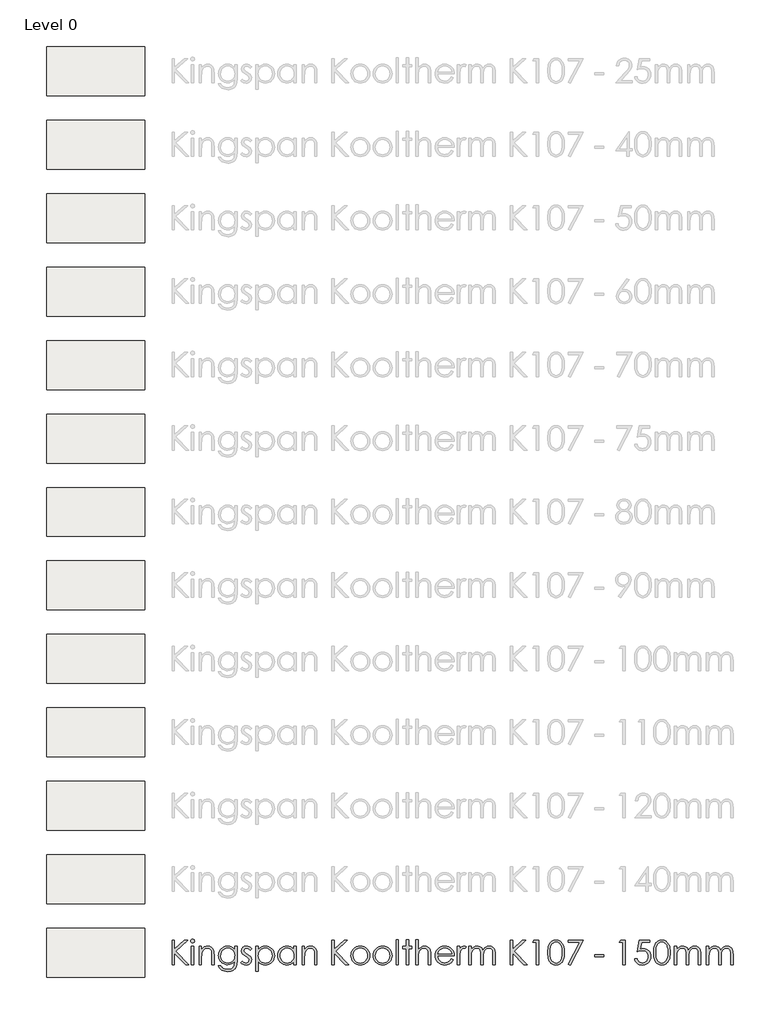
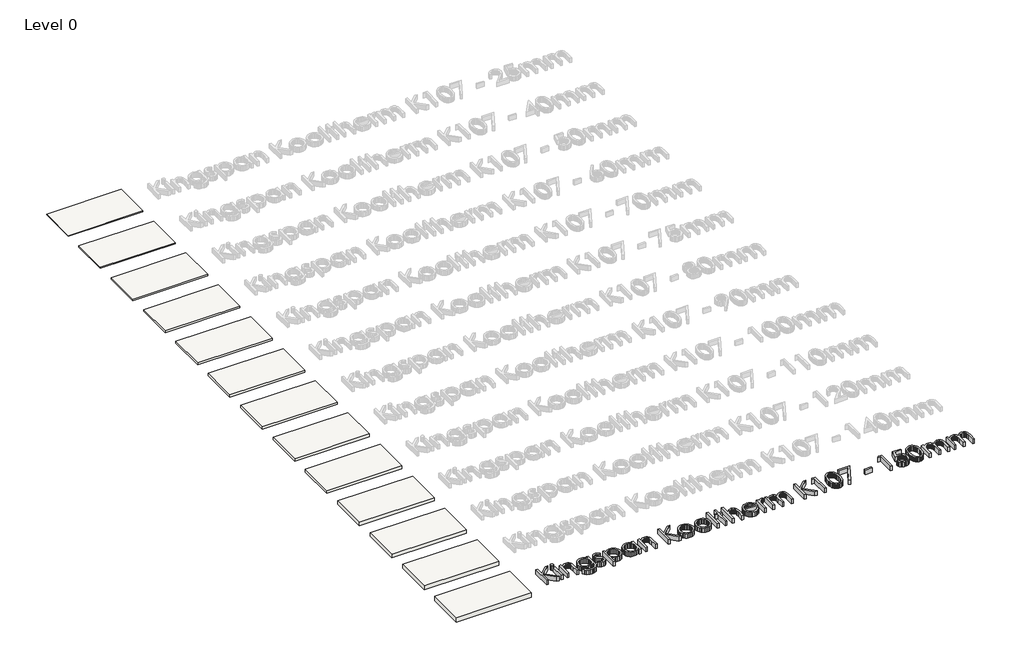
# One storey, part 1 of 13: 13 roofs, 1 proxy.
"""IFC4 building model written with IfcOpenShell, lengths in millimetres."""

import ifcopenshell
import ifcopenshell.guid

model = None  # the IFC model being written
_history = None  # IfcOwnerHistory: only IFC2X3 demands one
_inside = {}  # id of a spatial element -> (the spatial element, [elements in it])
_under = {}  # id of a project, library or spatial element -> (it, [spatial elements below it])
_declared = {}  # id of a project -> (the project, [libraries it declares])
_typed = {}  # id of a type object -> (the type object, [elements of that type])
_made_of = {}  # id of a material, layer set ... -> (it, [elements and type objects made of it])


def new_model(schema):
    """Start an empty IFC model of exactly this schema.

    Asked for "IFC4X3", IfcOpenShell would pick the latest addendum, in which some entities
    have other attributes; the version numbers below select the first issue.
    IFC2X3 requires an IfcOwnerHistory on every rooted entity: one is made here for all.
    """
    global model, _history
    if schema == "IFC4X3":
        model = ifcopenshell.file(schema_version=(4, 3, 0, 0))
    else:
        model = ifcopenshell.file(schema=schema)
    _inside.clear()
    _under.clear()
    _declared.clear()
    _typed.clear()
    _made_of.clear()
    _history = None
    if model.schema == "IFC2X3":
        org = make("IfcOrganization", Name="unknown")
        user = make(
            "IfcPersonAndOrganization",
            ThePerson=make("IfcPerson", FamilyName="unknown"),
            TheOrganization=org,
        )
        app = make(
            "IfcApplication",
            ApplicationDeveloper=org,
            Version="unknown",
            ApplicationFullName="unknown",
            ApplicationIdentifier="unknown",
        )
        _history = make(
            "IfcOwnerHistory",
            OwningUser=user,
            OwningApplication=app,
            ChangeAction="ADDED",
            CreationDate=0,
        )
    return model


def make(cls, **values):
    """One entity of the class cls with the attributes given. An attribute that is None is left unset."""
    return model.create_entity(
        cls, **{name: value for name, value in values.items() if value is not None}
    )


def rooted(cls, **values):
    """An entity with a GlobalId (a new one), such as an element, a storey or a relation."""
    return make(cls, GlobalId=ifcopenshell.guid.new(), OwnerHistory=_history, **values)


def si_unit(unit_type, name, prefix=None):
    """IfcSIUnit, for example si_unit("LENGTHUNIT", "METRE", prefix="MILLI")."""
    return make("IfcSIUnit", UnitType=unit_type, Prefix=prefix, Name=name)


def assignment(units):
    """IfcUnitAssignment: the units of a project."""
    return None if units is None else make("IfcUnitAssignment", Units=units)


def point(xyz):
    """IfcCartesianPoint."""
    return None if xyz is None else make("IfcCartesianPoint", Coordinates=xyz)


def direction(xyz):
    """IfcDirection."""
    return None if xyz is None else make("IfcDirection", DirectionRatios=xyz)


def frame(location, z_axis=None, x_axis=None):
    """IfcAxis2Placement3D, a coordinate frame: its origin and axes. An axis left out is left unset."""
    return make(
        "IfcAxis2Placement3D",
        Location=point(location),
        Axis=direction(z_axis),
        RefDirection=direction(x_axis),
    )


def origin():
    """The frame at (0, 0, 0) with its axes left unset."""
    return frame((0.0, 0.0, 0.0))


def origin_with_axes():
    """The frame at (0, 0, 0) with the z axis (0, 0, 1) and the x axis (1, 0, 0) written out."""
    return frame((0.0, 0.0, 0.0), z_axis=(0.0, 0.0, 1.0), x_axis=(1.0, 0.0, 0.0))


def place(relative_to, where):
    """IfcLocalPlacement: puts the frame where relative to a parent placement (None: the world)."""
    return make(
        "IfcLocalPlacement", PlacementRelTo=relative_to, RelativePlacement=where
    )


def context(
    kind, dimensions, precision=None, world=None, true_north=None, identifier=None
):
    """IfcGeometricRepresentationContext, for example the 3D "Model" context."""
    return make(
        "IfcGeometricRepresentationContext",
        ContextIdentifier=identifier,
        ContextType=kind,
        CoordinateSpaceDimension=dimensions,
        Precision=precision,
        WorldCoordinateSystem=world,
        TrueNorth=true_north,
    )


def project(units=None, contexts=None):
    """IfcProject with its units and contexts."""
    return rooted(
        "IfcProject",
        Name="project",
        RepresentationContexts=contexts,
        UnitsInContext=assignment(units),
    )


def spatial(cls, under=None, at=None, **own):
    """A site, building, storey or space (cls), placed at a placement, below another one or the project."""
    s = rooted(cls, ObjectPlacement=at, **own)
    if under is not None:
        _under.setdefault(under.id(), (under, []))[1].append(s)
    return s


def polyline(points):
    """IfcPolyline through the points."""
    return make("IfcPolyline", Points=[point(p) for p in points])


def outline(outer, holes=None, kind="AREA"):
    """IfcArbitraryClosedProfileDef: a profile drawn as a closed curve; with holes, ...WithVoids."""
    if holes is None:
        return make("IfcArbitraryClosedProfileDef", ProfileType=kind, OuterCurve=outer)
    return make(
        "IfcArbitraryProfileDefWithVoids",
        ProfileType=kind,
        OuterCurve=outer,
        InnerCurves=holes,
    )


def extrude(swept, where, along, depth):
    """IfcExtrudedAreaSolid: the profile swept, set in the frame where, extruded along a direction by depth."""
    return make(
        "IfcExtrudedAreaSolid",
        SweptArea=swept,
        Position=where,
        ExtrudedDirection=direction(along),
        Depth=depth,
    )


def shape(context_of_items, identifier, shape_type, items):
    """IfcShapeRepresentation: the items that make up one representation, for example the "Body"."""
    return make(
        "IfcShapeRepresentation",
        ContextOfItems=context_of_items,
        RepresentationIdentifier=identifier,
        RepresentationType=shape_type,
        Items=items,
    )


def made_of(thing, what):
    """Note that an element or type object is made of a material, layer set ...; save() writes the relation."""
    if what is not None:
        _made_of.setdefault(what.id(), (what, []))[1].append(thing)
    return thing


def element(
    cls,
    number,
    at=None,
    inside=None,
    cuts=None,
    type_object=None,
    material=None,
    context=None,
    identifier="Body",
    shape_type=None,
    held_by="IfcProductDefinitionShape",
    body=None,
    shapes=None,
    **own,
):
    """One element of the class cls, such as IfcWall. Its Tag is "e" and its number.

    at: its placement. inside: the storey or other place that contains it. cuts: it is an
    opening in that element (IfcRelVoidsElement). A single representation is given by context,
    identifier, shape_type and body (its items); several are given by shapes. held_by: the class
    of the entity that holds the representations. save() writes the other relations.
    """
    e = rooted(cls, Tag="e%d" % number, ObjectPlacement=at, **own)
    if body is not None:
        shapes = [shape(context, identifier, shape_type, body)]
    if shapes is not None:
        e.Representation = make(held_by, Representations=shapes)
    if inside is not None:
        _inside.setdefault(inside.id(), (inside, []))[1].append(e)
    if cuts is not None:
        rooted(
            "IfcRelVoidsElement", RelatingBuildingElement=cuts, RelatedOpeningElement=e
        )
    if type_object is not None:
        _typed.setdefault(type_object.id(), (type_object, []))[1].append(e)
    return made_of(e, material)


def aggregate(whole, parts):
    """IfcRelAggregates: a whole, such as a stair, and the parts it consists of."""
    return rooted("IfcRelAggregates", RelatingObject=whole, RelatedObjects=parts)


def save(model, path):
    """Write the relations noted so far, then the file.

    IfcRelAggregates (storeys below a building ...), IfcRelContainedInSpatialStructure (elements
    in a storey), IfcRelDefinesByType, IfcRelAssociatesMaterial and IfcRelDeclares: one each for
    every whole, place, type object, material and project.
    """
    for whole, parts in _under.values():
        aggregate(whole, parts)
    for where, things in _inside.values():
        rooted(
            "IfcRelContainedInSpatialStructure",
            RelatedElements=things,
            RelatingStructure=where,
        )
    for kind, things in _typed.values():
        rooted("IfcRelDefinesByType", RelatedObjects=things, RelatingType=kind)
    for what, things in _made_of.values():
        rooted("IfcRelAssociatesMaterial", RelatedObjects=things, RelatingMaterial=what)
    for by, libraries in _declared.values():
        rooted("IfcRelDeclares", RelatingContext=by, RelatedDefinitions=libraries)
    model.write(path)


model = new_model("IFC4")

# Units and contexts
model_context = context("Model", 3, world=origin())
ifc_project = project(units=[si_unit("LENGTHUNIT", "METRE", prefix="MILLI")], contexts=[model_context])

# Site, building, storey
site = spatial("IfcSite", under=ifc_project)
building = spatial("IfcBuilding", under=site)
storey = spatial("IfcBuildingStorey", under=building, Name="Level 0", Elevation=0.0)

# Proxy
placement = place(None, origin())
element("IfcBuildingElementProxy", 1, Name="600mm KI_CenturyGothic", ObjectType="600mm KI_CenturyGothic", at=placement, inside=storey, context=model_context, shape_type="SweptSolid", body=[
    extrude(outline(polyline([(-3852.2663848, -15699.1034017), (-3792.944575, -15699.1034017), (-3792.944575, -15918.316027), (-3555.1938841, -15699.1034017), (-3471.6181051, -15699.1034017), (-3760.9664119, -15966.0515459), (-3441.9572002, -16292.3214999), (-3520.8984627, -16292.3214999), (-3792.944575, -16014.0960325), (-3792.944575, -16292.3214999), (-3852.2663848, -16292.3214999), (-3852.2663848, -15699.1034017)])), origin_with_axes(), (0.0, 0.0, 1.0), 150.0),
    extrude(outline(polyline([(-3348.1854852, -15669.4424967), (-3329.145347, -15672.7252792), (-3313.1176445, -15682.5736265), (-3302.226531, -15697.0178693), (-3298.5961598, -15714.088338), (-3302.226531, -15730.9270809), (-3313.1176445, -15745.2940817), (-3329.145347, -15755.142429), (-3348.1854852, -15758.4252115), (-3366.9938975, -15755.142429), (-3382.9443581, -15745.2940817), (-3393.8354717, -15730.9270809), (-3397.4658428, -15714.088338), (-3393.8354717, -15697.0178693), (-3382.9443581, -15682.5736265), (-3366.9938975, -15672.7252792), (-3348.1854852, -15669.4424967)])), origin_with_axes(), (0.0, 0.0, 1.0), 150.0),
    extrude(outline(polyline([(-3377.6919062, -15847.4079262), (-3318.3700964, -15847.4079262), (-3318.3700964, -16292.3214999), (-3377.6919062, -16292.3214999), (-3377.6919062, -15847.4079262)])), origin_with_axes(), (0.0, 0.0, 1.0), 150.0),
    extrude(outline(polyline([(-3189.8395084, -15847.4079262), (-3130.5176986, -15847.4079262), (-3130.5176986, -15926.5036726), (-3096.9946967, -15886.9944204), (-3060.0730495, -15859.303185), (-3019.7141359, -15842.9665147), (-2975.879335, -15837.5209579), (-2953.4357238, -15839.0995901), (-2932.2955704, -15843.8354865), (-2912.4588747, -15851.7286472), (-2893.9256368, -15862.7790723), (-2877.212412, -15876.5039994), (-2862.835756, -15892.4206667), (-2841.0921499, -15930.8292213), (-2833.6238199, -15955.2087086), (-2828.2892984, -15985.5551357), (-2824.0216812, -16064.1488095), (-2824.0216812, -16292.3214999), (-2883.343491, -16292.3214999), (-2883.343491, -16079.1337458), (-2883.343491, -15976.092998), (-2884.7290183, -15955.2956057), (-2889.8125035, -15937.2403023), (-2898.2849788, -15921.9270877), (-2910.1464442, -15909.355962), (-2924.7403432, -15899.5558909), (-2941.4101193, -15892.5558401), (-2980.977303, -15886.9557994), (-3005.3471351, -15889.1137461), (-3028.4038541, -15895.5875862), (-3050.1474602, -15906.3773197), (-3070.5779533, -15921.4829466), (-3088.6622225, -15939.7651482), (-3103.3671568, -15960.084606), (-3114.6927562, -15982.44132), (-3122.6390208, -16006.8352901), (-3128.5480292, -16053.9142525), (-3130.5176986, -16128.4141035), (-3130.5176986, -16292.3214999), (-3189.8395084, -16292.3214999), (-3189.8395084, -15847.4079262)])), origin_with_axes(), (0.0, 0.0, 1.0), 150.0),
    extrude(outline(polyline([(-2319.7862977, -15847.4079262), (-2260.4644879, -15847.4079262), (-2260.4644879, -16198.395301), (-2264.5196897, -16278.6496765), (-2269.588692, -16309.4499001), (-2276.6852953, -16334.0321474), (-2289.9371156, -16362.6454585), (-2307.2924139, -16387.7732271), (-2328.7511904, -16409.4154531), (-2354.3134448, -16427.5721366), (-2383.3226209, -16441.9343098), (-2415.122162, -16452.1930049), (-2449.7120682, -16458.348222), (-2487.0923395, -16460.3999611), (-2541.0458345, -16456.3833802), (-2589.206184, -16444.3336376), (-2630.260275, -16425.5059147), (-2662.8949946, -16401.1553932), (-2690.2000204, -16367.8061856), (-2715.2650299, -16321.9824048), (-2655.94322, -16321.9824048), (-2642.4355358, -16343.151524), (-2627.0933555, -16361.3951046), (-2609.9166791, -16376.7131468), (-2590.9055067, -16389.1056506), (-2569.7894914, -16398.6691682), (-2546.2982864, -16405.5002523), (-2492.1903075, -16410.9651195), (-2438.5071593, -16405.6354257), (-2415.083541, -16398.9733084), (-2393.93856, -16389.6463441), (-2359.6624492, -16365.6047903), (-2336.8567664, -16336.1176798), (-2329.3884364, -16317.4782342), (-2324.0539149, -16293.7697863), (-2319.7862977, -16231.1458835), (-2319.7862977, -16208.4367532), (-2354.757586, -16244.2190818), (-2396.6420279, -16270.6165148), (-2443.392712, -16286.8952536), (-2492.9627269, -16292.3214999), (-2522.4063889, -16290.4242447), (-2550.9521133, -16284.7324793), (-2578.5999001, -16275.2462036), (-2605.3497494, -16261.9654175), (-2630.1540674, -16245.4742634), (-2651.9652601, -16226.3568832), (-2670.7833277, -16204.6132772), (-2686.6082702, -16180.2434451), (-2699.1456025, -16153.9280817), (-2708.1008399, -16126.3478816), (-2713.4739824, -16097.5028447), (-2715.2650299, -16067.392971), (-2713.3967404, -16037.1044753), (-2707.7918722, -16007.8780563), (-2698.4504251, -15979.713714), (-2685.3723991, -15952.6114483), (-2668.9971079, -15927.4257483), (-2649.7638648, -15905.0111029), (-2627.67267, -15885.367512), (-2602.7235235, -15868.4949758), (-2575.9833294, -15854.943843), (-2548.5189922, -15845.2644624), (-2520.3305117, -15839.456834), (-2491.4178881, -15837.5209579), (-2444.5320306, -15842.4644421), (-2400.8903346, -15857.2948945), (-2359.6045177, -15883.8661218), (-2319.7862977, -15924.0319306), (-2319.7862977, -15847.4079262)]), holes=[polyline([(-2484.1571458, -15886.9557994), (-2529.0154023, -15892.9806707), (-2570.5908765, -15911.0552847), (-2606.2187212, -15939.7699758), (-2633.2340897, -15977.7150788), (-2650.2659375, -16021.9940208), (-2655.94322, -16069.7102292), (-2653.0080263, -16105.6229036), (-2644.2024452, -16138.2817613), (-2629.5264766, -16167.6868023), (-2608.9801206, -16193.8380266), (-2583.7606272, -16215.296803), (-2555.0652466, -16230.6245004), (-2522.8939786, -16239.8211189), (-2487.2468234, -16242.8866584), (-2451.3244937, -16239.845257), (-2419.1001219, -16230.7210528), (-2390.573708, -16215.5140459), (-2365.7452519, -16194.2242363), (-2345.6382095, -16167.9812872), (-2331.2760363, -16137.9148621), (-2322.6587323, -16104.024961), (-2319.7862977, -16066.3115838), (-2325.0773706, -16017.6105407), (-2340.9505892, -15974.3936754), (-2366.4983608, -15938.1672056), (-2400.8130926, -15910.4373492), (-2440.9982119, -15892.8261869), (-2484.1571458, -15886.9557994)])]), origin_with_axes(), (0.0, 0.0, 1.0), 150.0),
    extrude(outline(polyline([(-1904.5336289, -15898.6965743), (-1940.9918246, -15936.390641), (-1962.9575012, -15914.7628978), (-1984.6721416, -15899.3145098), (-2006.1357456, -15890.045477), (-2027.3483133, -15886.9557994), (-2052.181597, -15891.6289368), (-2073.2300256, -15905.6483489), (-2087.5970264, -15925.8857371), (-2092.3860267, -15949.212803), (-2088.4466878, -15970.7633042), (-2076.628671, -15991.2324183), (-2052.0657341, -16013.400855), (-2010.2006027, -16039.122421), (-1958.3326401, -16071.9888664), (-1939.8428507, -16087.8138088), (-1926.315856, -16103.2332311), (-1909.9791857, -16135.9065716), (-1904.5336289, -16172.4420092), (-1906.9474396, -16198.5884059), (-1914.1888714, -16222.6492701), (-1926.2579245, -16244.624602), (-1943.1545989, -16264.5144015), (-1963.6719892, -16281.0055557), (-1986.6031901, -16292.7849515), (-2011.9482016, -16299.852589), (-2039.7070237, -16302.2084682), (-2077.4397114, -16298.3270607), (-2113.3958344, -16286.6828383), (-2145.4512394, -16268.2027042), (-2171.4817731, -16243.8135617), (-2135.7959969, -16203.3387852), (-2114.0041146, -16224.9665283), (-2091.5749863, -16240.4149163), (-2068.5086121, -16249.6839491), (-2044.8049918, -16252.7736267), (-2013.637869, -16247.1349651), (-1987.4914724, -16230.2189802), (-1969.7644472, -16205.6560434), (-1963.8554388, -16177.0765256), (-1967.7561567, -16153.2860081), (-1979.4583106, -16132.2762005), (-2005.0253927, -16110.5712154), (-2050.2119275, -16083.7682622), (-2099.762632, -16053.1032121), (-2117.441381, -16037.9444814), (-2130.3890611, -16022.9016136), (-2146.3781427, -15990.7689666), (-2151.7078365, -15954.310771), (-2149.5305794, -15930.2643896), (-2142.9988078, -15908.3325063), (-2132.1125219, -15888.5151211), (-2116.8717217, -15870.812234), (-2098.309518, -15856.2473007), (-2077.4590218, -15845.8437769), (-2054.3202332, -15839.6016627), (-2028.8931521, -15837.5209579), (-1997.9481, -15841.3444339), (-1966.9064954, -15852.814862), (-1935.7683384, -15871.9322421), (-1904.5336289, -15898.6965743)])), origin_with_axes(), (0.0, 0.0, 1.0), 150.0),
    extrude(outline(polyline([(-1795.7769776, -15847.4079262), (-1736.4551678, -15847.4079262), (-1736.4551678, -15928.5119631), (-1700.9238754, -15888.2689124), (-1660.4490989, -15859.9211205), (-1614.9922173, -15843.1209986), (-1564.5146096, -15837.5209579), (-1520.0618732, -15841.7596094), (-1478.9305402, -15854.4755637), (-1441.1206107, -15875.668821), (-1406.6320845, -15905.3393811), (-1377.9077381, -15940.9768811), (-1357.3903478, -15980.070958), (-1345.0799137, -16022.6216116), (-1340.9764356, -16068.628842), (-1345.0412927, -16115.5291824), (-1357.235864, -16158.7508754), (-1377.5601494, -16198.293921), (-1406.014149, -16234.1583192), (-1440.2130179, -16263.9302594), (-1477.7719111, -16285.1959309), (-1518.6908288, -16297.9553339), (-1562.9697708, -16302.2084682), (-1612.6170277, -16296.743601), (-1658.0545988, -16280.3489992), (-1699.3211052, -16253.1019049), (-1736.4551678, -16215.07956), (-1736.4551678, -16450.5129928), (-1795.7769776, -16450.5129928), (-1795.7769776, -15847.4079262)]), holes=[polyline([(-1568.5311905, -15886.9557994), (-1602.5852307, -15890.2530647), (-1633.8392507, -15900.1448607), (-1662.2932503, -15916.6311872), (-1687.9472295, -15939.7120444), (-1709.1694525, -15967.6977647), (-1724.3281832, -15998.8986808), (-1733.4234216, -16033.3147926), (-1736.4551678, -16070.9461002), (-1731.048232, -16119.8016272), (-1714.8274246, -16163.4819442), (-1688.5265441, -16200.3263495), (-1652.8793888, -16228.6741414), (-1611.4390881, -16246.7487554), (-1567.7587711, -16252.7736267), (-1525.0632888, -16246.7101344), (-1485.0326535, -16228.5196576), (-1450.2544701, -16199.4187567), (-1423.3163435, -16160.6239924), (-1406.05277, -16115.9588407), (-1400.2982454, -16069.2467775), (-1405.9948385, -16022.3029886), (-1423.0846177, -15977.8695627), (-1449.8103289, -15939.5189395), (-1484.414718, -15910.8235589), (-1524.7157001, -15892.9227393), (-1568.5311905, -15886.9557994)])]), origin_with_axes(), (0.0, 0.0, 1.0), 150.0),
    extrude(outline(polyline([(-807.0801472, -15847.4079262), (-807.0801472, -16292.3214999), (-866.401957, -16292.3214999), (-866.401957, -16216.4699149), (-903.4780882, -16254.3184655), (-944.8797679, -16281.0441767), (-990.4525125, -16296.9173953), (-1040.0418379, -16302.2084682), (-1084.3159523, -16297.9553339), (-1125.2203871, -16285.1959309), (-1162.7551422, -16263.9302594), (-1196.9202178, -16234.1583192), (-1225.340424, -16198.293921), (-1245.6405713, -16158.7508754), (-1257.8206597, -16115.5291824), (-1261.8806892, -16068.628842), (-1257.7820388, -16022.6216116), (-1245.4860875, -15980.070958), (-1224.9928353, -15940.9768811), (-1196.3022822, -15905.3393811), (-1161.8475494, -15875.668821), (-1124.061758, -15854.4755637), (-1082.9449079, -15841.7596094), (-1038.4969991, -15837.5209579), (-987.7490446, -15843.1209986), (-942.0990581, -15859.9211205), (-921.2051134, -15872.6081091), (-901.6242816, -15888.2689124), (-866.401957, -15928.5119631), (-866.401957, -15847.4079262), (-807.0801472, -15847.4079262)]), holes=[polyline([(-1034.3259343, -15886.9557994), (-1078.1414247, -15892.9227393), (-1118.4424068, -15910.8235589), (-1153.0467959, -15939.5189395), (-1179.7725071, -15977.8695627), (-1196.8622863, -16022.3029886), (-1202.5588794, -16069.2467775), (-1196.8043548, -16115.9588407), (-1179.5407813, -16160.6239924), (-1152.6026548, -16199.4187567), (-1117.8244713, -16228.5196576), (-1077.6779731, -16246.7101344), (-1034.6349021, -16252.7736267), (-991.0125165, -16246.7487554), (-949.7460102, -16228.6741414), (-914.2726493, -16200.3263495), (-888.0297002, -16163.4819442), (-871.8088928, -16119.8016272), (-866.401957, -16070.9461002), (-869.4337032, -16033.3147926), (-878.5289416, -15998.8986808), (-893.6876723, -15967.6977647), (-914.9098953, -15939.7120444), (-940.5638746, -15916.6311872), (-969.0178742, -15900.1448607), (-1000.2718941, -15890.2530647), (-1034.3259343, -15886.9557994)])]), origin_with_axes(), (0.0, 0.0, 1.0), 150.0),
    extrude(outline(polyline([(-668.662591, -15847.4079262), (-609.3407811, -15847.4079262), (-609.3407811, -15926.5036726), (-575.8177792, -15886.9944204), (-538.896132, -15859.303185), (-498.5372184, -15842.9665147), (-454.7024175, -15837.5209579), (-432.2588064, -15839.0995901), (-411.1186529, -15843.8354865), (-391.2819572, -15851.7286472), (-372.7487193, -15862.7790723), (-356.0354946, -15876.5039994), (-341.6588385, -15892.4206667), (-319.9152324, -15930.8292213), (-312.4469024, -15955.2087086), (-307.1123809, -15985.5551357), (-302.8447637, -16064.1488095), (-302.8447637, -16292.3214999), (-362.1665735, -16292.3214999), (-362.1665735, -16079.1337458), (-362.1665735, -15976.092998), (-363.5521008, -15955.2956057), (-368.635586, -15937.2403023), (-377.1080613, -15921.9270877), (-388.9695267, -15909.355962), (-403.5634257, -15899.5558909), (-420.2332018, -15892.5558401), (-459.8003855, -15886.9557994), (-484.1702176, -15889.1137461), (-507.2269366, -15895.5875862), (-528.9705427, -15906.3773197), (-549.4010358, -15921.4829466), (-567.485305, -15939.7651482), (-582.1902393, -15960.084606), (-593.5158387, -15982.44132), (-601.4621033, -16006.8352901), (-607.3711117, -16053.9142525), (-609.3407811, -16128.4141035), (-609.3407811, -16292.3214999), (-668.662591, -16292.3214999), (-668.662591, -15847.4079262)])), origin_with_axes(), (0.0, 0.0, 1.0), 150.0),
    extrude(outline(polyline([(62.9730635, -15699.1034017), (122.2948734, -15699.1034017), (122.2948734, -15918.316027), (360.0455643, -15699.1034017), (443.6213432, -15699.1034017), (154.2730365, -15966.0515459), (473.2822481, -16292.3214999), (394.3409856, -16292.3214999), (122.2948734, -16014.0960325), (122.2948734, -16292.3214999), (62.9730635, -16292.3214999), (62.9730635, -15699.1034017)])), origin_with_axes(), (0.0, 0.0, 1.0), 150.0),
    extrude(outline(polyline([(760.1588128, -15837.5209579), (809.4681362, -15842.1458191), (854.3553585, -15856.0204025), (894.8204798, -15879.1447083), (930.8635, -15911.5187363), (957.7630055, -15946.7507161), (976.9769381, -15985.091684), (988.5052976, -16026.54164), (992.3480841, -16071.1005841), (988.283227, -16115.9153921), (976.0886558, -16157.8239721), (955.7643703, -16196.8263241), (927.3103707, -16232.9224481), (892.4742558, -16263.2350819), (853.0036246, -16284.8869632), (808.8984769, -16297.8780919), (760.1588128, -16302.2084682), (711.2839754, -16297.8780919), (667.0822753, -16284.8869632), (627.5537126, -16263.2350819), (592.6982872, -16232.9224481), (564.2442876, -16196.8263241), (543.9200022, -16157.8239721), (531.7254309, -16115.9153921), (527.6605738, -16071.1005841), (531.5033603, -16026.7347449), (543.0317198, -15985.4006518), (562.2456524, -15947.0983049), (589.145158, -15911.8277041), (625.2074886, -15879.3185026), (665.7305413, -15856.0976445), (710.7143161, -15842.1651295), (760.1588128, -15837.5209579)]), holes=[polyline([(760.004329, -15886.9557994), (725.7282181, -15890.3303067), (693.9624704, -15900.4538284), (664.7070856, -15917.3263647), (637.962064, -15940.9479154), (615.6584538, -15969.3584664), (599.7273037, -16000.5980035), (590.1686137, -16034.6665266), (586.9823836, -16071.5640357), (592.7948396, -16119.2995546), (610.2322075, -16163.6364281), (637.5758543, -16201.4270471), (673.1071466, -16229.5238028), (714.6439998, -16246.9611707), (760.004329, -16252.7736267), (805.3646581, -16246.9611707), (846.9015113, -16229.5238028), (882.4328037, -16201.4270471), (909.7764504, -16163.6364281), (927.2138183, -16119.2995546), (933.0262743, -16071.5640357), (929.8255614, -16034.6665266), (920.2234227, -16000.5980035), (904.2198583, -15969.3584664), (881.8148681, -15940.9479154), (854.9974321, -15917.3263647), (825.7565303, -15900.4538284), (794.0921625, -15890.3303067), (760.004329, -15886.9557994)])]), origin_with_axes(), (0.0, 0.0, 1.0), 150.0),
    extrude(outline(polyline([(1303.9420695, -15837.5209579), (1353.2513929, -15842.1458191), (1398.1386152, -15856.0204025), (1438.6037365, -15879.1447083), (1474.6467567, -15911.5187363), (1501.5462622, -15946.7507161), (1520.7601948, -15985.091684), (1532.2885543, -16026.54164), (1536.1313408, -16071.1005841), (1532.0664837, -16115.9153921), (1519.8719125, -16157.8239721), (1499.547627, -16196.8263241), (1471.0936274, -16232.9224481), (1436.2575126, -16263.2350819), (1396.7868813, -16284.8869632), (1352.6817336, -16297.8780919), (1303.9420695, -16302.2084682), (1255.0672321, -16297.8780919), (1210.865532, -16284.8869632), (1171.3369693, -16263.2350819), (1136.4815439, -16232.9224481), (1108.0275443, -16196.8263241), (1087.7032589, -16157.8239721), (1075.5086876, -16115.9153921), (1071.4438305, -16071.1005841), (1075.286617, -16026.7347449), (1086.8149766, -15985.4006518), (1106.0289091, -15947.0983049), (1132.9284147, -15911.8277041), (1168.9907453, -15879.3185026), (1209.5137981, -15856.0976445), (1254.4975728, -15842.1651295), (1303.9420695, -15837.5209579)]), holes=[polyline([(1303.7875857, -15886.9557994), (1269.5114748, -15890.3303067), (1237.7457271, -15900.4538284), (1208.4903423, -15917.3263647), (1181.7453207, -15940.9479154), (1159.4417105, -15969.3584664), (1143.5105604, -16000.5980035), (1133.9518704, -16034.6665266), (1130.7656404, -16071.5640357), (1136.5780963, -16119.2995546), (1154.0154643, -16163.6364281), (1181.359111, -16201.4270471), (1216.8904033, -16229.5238028), (1258.4272565, -16246.9611707), (1303.7875857, -16252.7736267), (1349.1479149, -16246.9611707), (1390.684768, -16229.5238028), (1426.2160604, -16201.4270471), (1453.5597071, -16163.6364281), (1470.997075, -16119.2995546), (1476.809531, -16071.5640357), (1473.6088181, -16034.6665266), (1464.0066795, -16000.5980035), (1448.003115, -15969.3584664), (1425.5981249, -15940.9479154), (1398.7806889, -15917.3263647), (1369.539787, -15900.4538284), (1337.8754193, -15890.3303067), (1303.7875857, -15886.9557994)])]), origin_with_axes(), (0.0, 0.0, 1.0), 150.0),
    extrude(outline(polyline([(1635.0010238, -15679.3294651), (1694.3228337, -15679.3294651), (1694.3228337, -16292.3214999), (1635.0010238, -16292.3214999), (1635.0010238, -15679.3294651)])), origin_with_axes(), (0.0, 0.0, 1.0), 150.0),
    extrude(outline(polyline([(1882.1752314, -15679.3294651), (1941.4970413, -15679.3294651), (1941.4970413, -15847.4079262), (2020.5927877, -15847.4079262), (2020.5927877, -15896.8427677), (1941.4970413, -15896.8427677), (1941.4970413, -16292.3214999), (1882.1752314, -16292.3214999), (1882.1752314, -15896.8427677), (1803.079485, -15896.8427677), (1803.079485, -15847.4079262), (1882.1752314, -15847.4079262), (1882.1752314, -15679.3294651)])), origin_with_axes(), (0.0, 0.0, 1.0), 150.0),
    extrude(outline(polyline([(2119.4624707, -15679.3294651), (2178.7842806, -15679.3294651), (2178.7842806, -15928.0485114), (2212.5583188, -15888.3461544), (2249.6151394, -15860.0756044), (2289.9161216, -15843.1596195), (2333.4226442, -15837.5209579), (2355.8662553, -15839.0995901), (2377.0064088, -15843.8354865), (2396.8431044, -15851.7286472), (2415.3763424, -15862.7790723), (2432.0895671, -15876.4895166), (2446.4662232, -15892.3627352), (2468.2098293, -15930.5974955), (2475.6781593, -15954.9045684), (2481.0126808, -15985.2654784), (2485.280298, -16064.1488095), (2485.280298, -16292.3214999), (2425.9584882, -16292.3214999), (2425.9584882, -16079.1337458), (2424.5681332, -16014.752589), (2420.3970685, -15976.092998), (2406.879729, -15937.2403023), (2397.1665551, -15921.9270877), (2385.4837117, -15909.355962), (2371.840854, -15899.5558909), (2356.2476374, -15892.5558401), (2319.2101273, -15886.9557994), (2296.3416854, -15889.1137461), (2274.6994594, -15895.5875862), (2254.2834492, -15906.3773197), (2235.0936547, -15921.4829466), (2218.1052556, -15939.7651482), (2204.2934312, -15960.084606), (2193.6581816, -15982.44132), (2186.1995068, -16006.8352901), (2180.6380871, -16053.6825267), (2178.7842806, -16128.4141035), (2178.7842806, -16292.3214999), (2119.4624707, -16292.3214999), (2119.4624707, -15679.3294651)])), origin_with_axes(), (0.0, 0.0, 1.0), 150.0),
    extrude(outline(polyline([(2991.0605203, -16144.0169753), (3038.950523, -16169.1978477), (3013.3255094, -16211.0822896), (2984.0315038, -16244.0452875), (2950.952643, -16269.1296074), (2913.9730643, -16287.3780157), (2872.4941426, -16298.5008551), (2825.9172528, -16302.2084682), (2774.4258447, -16297.7767119), (2728.8627554, -16284.481443), (2689.227985, -16262.3226615), (2655.5215335, -16231.3003674), (2628.6220279, -16194.6973431), (2609.4080954, -16155.7963712), (2597.8797358, -16114.5974515), (2594.0369493, -16071.1005841), (2597.3197318, -16030.2202874), (2607.1680791, -15991.618628), (2623.5819913, -15955.2956057), (2646.5614684, -15921.2512207), (2682.7493173, -15884.6192308), (2724.5758277, -15858.4535236), (2772.0409998, -15842.7540993), (2825.1448334, -15837.5209579), (2879.7935059, -15842.8892727), (2928.6490329, -15858.9942172), (2971.7114143, -15885.8357913), (3008.9806503, -15923.4139951), (3030.4539096, -15955.585263), (3045.9022976, -15991.541386), (3055.3258143, -16031.2823641), (3058.7244596, -16074.8081972), (2653.3587591, -16074.8081972), (2657.095338, -16112.0629503), (2666.6057518, -16145.8128504), (2681.8900007, -16176.0578975), (2702.9480845, -16202.7980916), (2728.3124066, -16224.6623882), (2756.5153699, -16240.2797429), (2787.5569744, -16249.6501557), (2821.4372203, -16252.7736267), (2854.9602222, -16249.761191), (2887.5563208, -16240.7238841), (2917.2944677, -16226.6851615), (2942.2436143, -16208.668479), (2965.725164, -16182.5027719), (2991.0605203, -16144.0169753)]), holes=[polyline([(2999.4026498, -16025.3733557), (2984.9777175, -15982.8516678), (2965.1844704, -15949.8307385), (2939.0766947, -15924.3022774), (2905.7081767, -15904.257994), (2867.7630738, -15891.2813481), (2827.9255433, -15886.9557994), (2795.503239, -15889.6689226), (2765.4368139, -15897.808292), (2737.726268, -15911.3739077), (2712.3716012, -15930.3657696), (2695.8321708, -15948.179692), (2681.4362043, -15969.9522638), (2669.1837016, -15995.683485), (2659.0746627, -16025.3733557), (2999.4026498, -16025.3733557)])]), origin_with_axes(), (0.0, 0.0, 1.0), 150.0),
    extrude(outline(polyline([(3137.820206, -15847.4079262), (3197.1420159, -15847.4079262), (3197.1420159, -15911.8277041), (3222.6897875, -15878.7874643), (3249.589293, -15855.6728138), (3277.7632906, -15842.0589219), (3307.1345382, -15837.5209579), (3330.4616041, -15841.305813), (3355.3335087, -15852.6603781), (3325.8270877, -15894.6799934), (3297.2475699, -15886.9557994), (3270.8308265, -15892.9034288), (3245.3409863, -15910.7463169), (3223.2884125, -15941.1023993), (3207.183468, -15984.5896114), (3199.6523789, -16042.7141712), (3197.1420159, -16140.1548783), (3197.1420159, -16292.3214999), (3137.820206, -16292.3214999), (3137.820206, -15847.4079262)])), origin_with_axes(), (0.0, 0.0, 1.0), 150.0),
    extrude(outline(polyline([(3414.6553185, -15847.4079262), (3473.9771284, -15847.4079262), (3473.9771284, -15923.5684789), (3503.5607913, -15887.0716623), (3533.9168737, -15861.9294109), (3577.3268439, -15843.6230712), (3622.8995884, -15837.5209579), (3653.7384329, -15840.668567), (3682.9165757, -15850.1113941), (3708.6767627, -15864.7873627), (3729.2617397, -15883.634396), (3746.0425511, -15909.0663047), (3760.3902414, -15943.4968994), (3775.16759, -15919.0981017), (3791.6925376, -15897.808292), (3809.965084, -15879.6274704), (3829.9852293, -15864.5556369), (3851.2798666, -15852.7279648), (3873.375889, -15844.2796277), (3896.2732965, -15839.2106253), (3919.9720892, -15837.5209579), (3962.3006723, -15843.3334139), (3981.4952943, -15850.5989839), (3999.3768034, -15860.7707818), (4015.4914031, -15873.53984), (4029.385297, -15888.5971907), (4050.5109676, -15925.5767694), (4057.8103309, -15948.9521114), (4063.0241619, -15977.5219739), (4067.1952266, -16050.2452603), (4067.1952266, -16292.3214999), (4007.8734168, -16292.3214999), (4007.8734168, -16046.6921311), (4005.4209852, -15985.5744462), (3998.0636904, -15947.1272706), (3984.7587663, -15922.6608861), (3964.4634466, -15903.4855746), (3938.3942919, -15891.0882432), (3907.7678627, -15886.9557994), (3888.1194442, -15888.5054659), (3869.3399976, -15893.1544651), (3834.3880198, -15911.7504621), (3805.6540182, -15940.6968791), (3785.8800816, -15977.9468046), (3779.1889985, -16002.1042213), (3774.4096535, -16033.1747916), (3770.5861775, -16116.0553931), (3770.5861775, -16292.3214999), (3711.2643677, -16292.3214999), (3711.2643677, -16061.9860352), (3708.850557, -15993.530366), (3701.6091252, -15951.2983353), (3688.3621325, -15925.0553863), (3667.9316394, -15904.5669617), (3641.6114484, -15891.35859), (3610.6953619, -15886.9557994), (3573.7544042, -15892.9999812), (3539.2465676, -15911.1325266), (3510.2808401, -15939.499629), (3489.9662099, -15976.2474819), (3477.9743988, -16028.0768236), (3473.9771284, -16101.6883923), (3473.9771284, -16292.3214999), (3414.6553185, -16292.3214999), (3414.6553185, -15847.4079262)])), origin_with_axes(), (0.0, 0.0, 1.0), 150.0),
    extrude(outline(polyline([(4433.0130538, -15699.1034017), (4492.3348637, -15699.1034017), (4492.3348637, -15918.316027), (4730.0855546, -15699.1034017), (4813.6613335, -15699.1034017), (4524.3130268, -15966.0515459), (4843.3222385, -16292.3214999), (4764.3809759, -16292.3214999), (4492.3348637, -16014.0960325), (4492.3348637, -16292.3214999), (4433.0130538, -16292.3214999), (4433.0130538, -15699.1034017)])), origin_with_axes(), (0.0, 0.0, 1.0), 150.0),
    extrude(outline(polyline([(5010.6282802, -15699.1034017), (5125.1008351, -15699.1034017), (5125.1008351, -16292.3214999), (5065.7790253, -16292.3214999), (5065.7790253, -15748.5382432), (4976.7963106, -15748.5382432), (5010.6282802, -15699.1034017)])), origin_with_axes(), (0.0, 0.0, 1.0), 150.0),
    extrude(outline(polyline([(5352.5011061, -15995.8669347), (5354.0797383, -15941.4355052), (5358.8156347, -15893.5406748), (5366.7087954, -15852.1824436), (5377.7592204, -15817.3608116), (5391.6869077, -15787.7192172), (5408.2118552, -15761.9010988), (5427.334063, -15739.9064564), (5449.053531, -15721.73529), (5472.747496, -15707.5082902), (5497.793195, -15697.3461475), (5524.190628, -15691.2488619), (5551.9397949, -15689.2164334), (5580.1427582, -15691.2633448), (5606.974677, -15697.404079), (5632.4355515, -15707.638636), (5656.5253815, -15721.9670159), (5678.7083011, -15740.3843909), (5698.4484443, -15762.8859335), (5715.7458112, -15789.4716437), (5730.6004018, -15820.1415214), (5742.5294539, -15855.6583309), (5751.0502054, -15896.7848363), (5756.1626563, -15943.5210375), (5757.8668066, -15995.8669347), (5756.1867944, -16048.0535203), (5751.1467578, -16094.6207548), (5742.7466968, -16135.5686382), (5730.9866115, -16170.8971704), (5716.2768496, -16201.4222195), (5699.0277589, -16227.9596535), (5679.2393394, -16250.5094723), (5656.9115912, -16269.071676), (5632.6527944, -16283.5690226), (5607.0712295, -16293.9242701), (5580.1668963, -16300.1374187), (5551.9397949, -16302.2084682), (5524.2147661, -16300.2001778), (5497.8897474, -16294.1753064), (5472.964739, -16284.1338543), (5449.4397407, -16270.0758212), (5427.8651013, -16252.0398282), (5408.7911698, -16230.0644964), (5392.2179461, -16204.1498255), (5378.1454301, -16174.2958158), (5366.9260384, -16139.2762513), (5358.9121871, -16097.8649163), (5354.1038764, -16050.0618107), (5352.5011061, -15995.8669347)]), holes=[polyline([(5411.8229159, -15995.7124508), (5416.206396, -16084.038609), (5421.6857461, -16119.0195525), (5429.3568363, -16147.8790723), (5439.1713903, -16172.1185586), (5451.0811319, -16193.2394015), (5465.0860611, -16211.2416011), (5481.1861779, -16226.1251574), (5516.4857445, -16246.1115094), (5534.8886366, -16251.1080973), (5553.7936014, -16252.7736267), (5572.7854634, -16251.1418907), (5591.1400794, -16246.2466828), (5625.9375733, -16226.665851), (5641.694929, -16211.9898824), (5655.4439943, -16194.0697524), (5667.1847692, -16172.9054608), (5676.9172536, -16148.4970078), (5686.3793912, -16115.1381451), (5693.138061, -16078.5544313), (5698.5449967, -15995.7124508), (5693.7173755, -15914.1063413), (5687.682849, -15879.4150551), (5679.2345118, -15848.7982811), (5668.652366, -15822.135329), (5656.2164137, -15799.3055082), (5641.9266548, -15780.3088186), (5625.7830894, -15765.1452603), (5590.7152487, -15745.2747712), (5572.4861509, -15740.307149), (5553.7936014, -15738.6512749), (5534.7776014, -15740.307149), (5516.3505711, -15745.2747712), (5481.2634199, -15765.1452603), (5465.3177869, -15779.9564022), (5451.3900996, -15797.8958428), (5439.480358, -15818.9635819), (5429.5885621, -15843.1596195), (5421.8160919, -15872.0143117), (5416.2643275, -15907.0580143), (5411.8229159, -15995.7124508)])]), origin_with_axes(), (0.0, 0.0, 1.0), 150.0),
    extrude(outline(polyline([(5846.8495213, -15699.1034017), (6222.5543169, -15699.1034017), (5906.1713311, -16302.2084682), (5852.2564571, -16279.8083056), (6130.9453762, -15748.5382432), (5846.8495213, -15748.5382432), (5846.8495213, -15699.1034017)])), origin_with_axes(), (0.0, 0.0, 1.0), 150.0),
    extrude(outline(polyline([(6499.3894294, -16045.1472923), (6726.7897004, -16045.1472923), (6726.7897004, -16094.5821338), (6499.3894294, -16094.5821338), (6499.3894294, -16045.1472923)])), origin_with_axes(), (0.0, 0.0, 1.0), 150.0),
    extrude(outline(polyline([(7136.3264656, -15699.1034017), (7250.7990205, -15699.1034017), (7250.7990205, -16292.3214999), (7191.4772106, -16292.3214999), (7191.4772106, -15748.5382432), (7102.4944959, -15748.5382432), (7136.3264656, -15699.1034017)])), origin_with_axes(), (0.0, 0.0, 1.0), 150.0),
    extrude(outline(polyline([(7853.904087, -15699.1034017), (7853.904087, -15748.5382432), (7646.5867204, -15748.5382432), (7612.1368152, -15909.5104459), (7649.7150189, -15900.0096873), (7683.3538838, -15896.8427677), (7722.9403779, -15900.2655512), (7758.8965009, -15910.5339016), (7791.2222528, -15927.6478189), (7819.9176335, -15951.6073031), (7843.4378041, -15980.9157917), (7860.2379261, -16014.076722), (7870.3179992, -16051.090094), (7873.6780236, -16091.9559079), (7871.9545628, -16120.9216353), (7866.7841805, -16148.6514917), (7858.1668766, -16175.1454771), (7846.1026511, -16200.4035914), (7831.0984042, -16223.6051391), (7813.6610363, -16243.9294246), (7793.7905473, -16261.3764477), (7771.4869371, -16275.9462086), (7747.054346, -16287.4359472), (7720.7969141, -16295.6429033), (7692.7146413, -16300.567077), (7662.8075277, -16302.2084682), (7627.4741679, -16299.4518965), (7595.008415, -16291.1821813), (7565.4102692, -16277.3993226), (7538.6797304, -16258.1033205), (7515.9271515, -16234.4334936), (7498.2628853, -16207.5291604), (7485.686932, -16177.390321), (7478.1992914, -16144.0169753), (7537.5211013, -16144.0169753), (7547.0991018, -16176.7482474), (7561.6205865, -16202.6436077), (7581.4524546, -16222.9582379), (7606.9616052, -16238.9473194), (7635.9852641, -16249.3170499), (7666.360657, -16252.7736267), (7695.6498351, -16249.8480882), (7722.8052045, -16241.0714728), (7747.8267654, -16226.4437804), (7770.7145178, -16205.9650111), (7789.8077598, -16181.0931065), (7803.4457898, -16153.2860081), (7811.6286078, -16122.543716), (7814.3562138, -16088.8662303), (7811.8941269, -16058.6791146), (7804.5078664, -16031.4561585), (7792.1974323, -16007.1973617), (7774.9628244, -15985.9027244), (7753.6054281, -15968.5667365), (7728.9266283, -15956.183888), (7700.9264251, -15948.754179), (7669.6048185, -15946.2776093), (7640.8997825, -15948.1314158), (7609.3174844, -15953.6928355), (7537.5211013, -15975.9385142), (7596.8429111, -15699.1034017), (7853.904087, -15699.1034017)])), origin_with_axes(), (0.0, 0.0, 1.0), 150.0),
    extrude(outline(polyline([(7942.8868017, -15995.8669347), (7944.4654339, -15941.4355052), (7949.2013303, -15893.5406748), (7957.094491, -15852.1824436), (7968.1449161, -15817.3608116), (7982.0726034, -15787.7192172), (7998.5975509, -15761.9010988), (8017.7197586, -15739.9064564), (8039.4392266, -15721.73529), (8063.1331916, -15707.5082902), (8088.1788906, -15697.3461475), (8114.5763236, -15691.2488619), (8142.3254905, -15689.2164334), (8170.5284538, -15691.2633448), (8197.3603726, -15697.404079), (8222.8212471, -15707.638636), (8246.9110771, -15721.9670159), (8269.0939967, -15740.3843909), (8288.8341399, -15762.8859335), (8306.1315069, -15789.4716437), (8320.9860974, -15820.1415214), (8332.9151495, -15855.6583309), (8341.435901, -15896.7848363), (8346.5483519, -15943.5210375), (8348.2525022, -15995.8669347), (8346.57249, -16048.0535203), (8341.5324534, -16094.6207548), (8333.1323925, -16135.5686382), (8321.3723071, -16170.8971704), (8306.6625452, -16201.4222195), (8289.4134545, -16227.9596535), (8269.625035, -16250.5094723), (8247.2972868, -16269.071676), (8223.03849, -16283.5690226), (8197.4569251, -16293.9242701), (8170.5525919, -16300.1374187), (8142.3254905, -16302.2084682), (8114.6004617, -16300.2001778), (8088.2754431, -16294.1753064), (8063.3504346, -16284.1338543), (8039.8254363, -16270.0758212), (8018.2507969, -16252.0398282), (7999.1768654, -16230.0644964), (7982.6036417, -16204.1498255), (7968.5311258, -16174.2958158), (7957.311734, -16139.2762513), (7949.2978827, -16097.8649163), (7944.489572, -16050.0618107), (7942.8868017, -15995.8669347)]), holes=[polyline([(8002.2086116, -15995.7124508), (8006.5920916, -16084.038609), (8012.0714418, -16119.0195525), (8019.7425319, -16147.8790723), (8029.5570859, -16172.1185586), (8041.4668275, -16193.2394015), (8055.4717567, -16211.2416011), (8071.5718736, -16226.1251574), (8106.8714401, -16246.1115094), (8125.2743323, -16251.1080973), (8144.179297, -16252.7736267), (8163.171159, -16251.1418907), (8181.525775, -16246.2466828), (8216.3232689, -16226.665851), (8232.0806246, -16211.9898824), (8245.8296899, -16194.0697524), (8257.5704648, -16172.9054608), (8267.3029492, -16148.4970078), (8276.7650868, -16115.1381451), (8283.5237566, -16078.5544313), (8288.9306924, -15995.7124508), (8284.1030711, -15914.1063413), (8278.0685446, -15879.4150551), (8269.6202074, -15848.7982811), (8259.0380616, -15822.135329), (8246.6021093, -15799.3055082), (8232.3123504, -15780.3088186), (8216.168785, -15765.1452603), (8181.1009443, -15745.2747712), (8162.8718465, -15740.307149), (8144.179297, -15738.6512749), (8125.163297, -15740.307149), (8106.7362667, -15745.2747712), (8071.6491155, -15765.1452603), (8055.7034825, -15779.9564022), (8041.7757953, -15797.8958428), (8029.8660536, -15818.9635819), (8019.9742577, -15843.1596195), (8012.2017875, -15872.0143117), (8006.6500231, -15907.0580143), (8002.2086116, -15995.7124508)])]), origin_with_axes(), (0.0, 0.0, 1.0), 150.0),
    extrude(outline(polyline([(8447.1221852, -15847.4079262), (8506.4439951, -15847.4079262), (8506.4439951, -15923.5684789), (8536.027658, -15887.0716623), (8566.3837404, -15861.9294109), (8609.7937106, -15843.6230712), (8655.3664551, -15837.5209579), (8686.2052996, -15840.668567), (8715.3834424, -15850.1113941), (8741.1436294, -15864.7873627), (8761.7286063, -15883.634396), (8778.5094178, -15909.0663047), (8792.8571081, -15943.4968994), (8807.6344567, -15919.0981017), (8824.1594042, -15897.808292), (8842.4319506, -15879.6274704), (8862.4520959, -15864.5556369), (8883.7467332, -15852.7279648), (8905.8427557, -15844.2796277), (8928.7401632, -15839.2106253), (8952.4389559, -15837.5209579), (8994.7675389, -15843.3334139), (9013.962161, -15850.5989839), (9031.8436701, -15860.7707818), (9047.9582698, -15873.53984), (9061.8521637, -15888.5971907), (9082.9778343, -15925.5767694), (9090.2771976, -15948.9521114), (9095.4910285, -15977.5219739), (9099.6620933, -16050.2452603), (9099.6620933, -16292.3214999), (9040.3402835, -16292.3214999), (9040.3402835, -16046.6921311), (9037.8878519, -15985.5744462), (9030.5305571, -15947.1272706), (9017.225633, -15922.6608861), (8996.9303133, -15903.4855746), (8970.8611585, -15891.0882432), (8940.2347294, -15886.9557994), (8920.5863109, -15888.5054659), (8901.8068643, -15893.1544651), (8866.8548865, -15911.7504621), (8838.1208849, -15940.6968791), (8818.3469483, -15977.9468046), (8811.6558652, -16002.1042213), (8806.8765202, -16033.1747916), (8803.0530442, -16116.0553931), (8803.0530442, -16292.3214999), (8743.7312343, -16292.3214999), (8743.7312343, -16061.9860352), (8741.3174237, -15993.530366), (8734.0759919, -15951.2983353), (8720.8289992, -15925.0553863), (8700.3985061, -15904.5669617), (8674.0783151, -15891.35859), (8643.1622286, -15886.9557994), (8606.2212709, -15892.9999812), (8571.7134342, -15911.1325266), (8542.7477068, -15939.499629), (8522.4330766, -15976.2474819), (8510.4412654, -16028.0768236), (8506.4439951, -16101.6883923), (8506.4439951, -16292.3214999), (8447.1221852, -16292.3214999), (8447.1221852, -15847.4079262)])), origin_with_axes(), (0.0, 0.0, 1.0), 150.0),
    extrude(outline(polyline([(9238.0796495, -15847.4079262), (9297.4014594, -15847.4079262), (9297.4014594, -15923.5684789), (9326.9851223, -15887.0716623), (9357.3412047, -15861.9294109), (9400.7511749, -15843.6230712), (9446.3239194, -15837.5209579), (9477.1627639, -15840.668567), (9506.3409067, -15850.1113941), (9532.1010937, -15864.7873627), (9552.6860706, -15883.634396), (9569.4668821, -15909.0663047), (9583.8145724, -15943.4968994), (9598.591921, -15919.0981017), (9615.1168685, -15897.808292), (9633.389415, -15879.6274704), (9653.4095602, -15864.5556369), (9674.7041975, -15852.7279648), (9696.80022, -15844.2796277), (9719.6976275, -15839.2106253), (9743.3964202, -15837.5209579), (9785.7250032, -15843.3334139), (9804.9196253, -15850.5989839), (9822.8011344, -15860.7707818), (9838.9157341, -15873.53984), (9852.809628, -15888.5971907), (9873.9352986, -15925.5767694), (9881.2346619, -15948.9521114), (9886.4484928, -15977.5219739), (9890.6195576, -16050.2452603), (9890.6195576, -16292.3214999), (9831.2977478, -16292.3214999), (9831.2977478, -16046.6921311), (9828.8453162, -15985.5744462), (9821.4880214, -15947.1272706), (9808.1830973, -15922.6608861), (9787.8877776, -15903.4855746), (9761.8186229, -15891.0882432), (9731.1921937, -15886.9557994), (9711.5437752, -15888.5054659), (9692.7643286, -15893.1544651), (9657.8123508, -15911.7504621), (9629.0783492, -15940.6968791), (9609.3044126, -15977.9468046), (9602.6133295, -16002.1042213), (9597.8339845, -16033.1747916), (9594.0105085, -16116.0553931), (9594.0105085, -16292.3214999), (9534.6886987, -16292.3214999), (9534.6886987, -16061.9860352), (9532.274888, -15993.530366), (9525.0334562, -15951.2983353), (9511.7864635, -15925.0553863), (9491.3559704, -15904.5669617), (9465.0357794, -15891.35859), (9434.1196929, -15886.9557994), (9397.1787352, -15892.9999812), (9362.6708986, -15911.1325266), (9333.7051711, -15939.499629), (9313.3905409, -15976.2474819), (9301.3987298, -16028.0768236), (9297.4014594, -16101.6883923), (9297.4014594, -16292.3214999), (9238.0796495, -16292.3214999), (9238.0796495, -15847.4079262)])), origin_with_axes(), (0.0, 0.0, 1.0), 150.0),
])

# Roofs
element("IfcRoof", 2, ObjectType="KingspanInsulation_Insulation_Kooltherm-K107-PitchedRoofBoard-25", at=placement, inside=storey, context=model_context, shape_type="SweptSolid", body=[
    extrude(outline(polyline([(-6925.6018099, 6194.1483868), (-4525.6018099, 6194.1483868), (-4525.6018099, 4994.1483868), (-6925.6018099, 4994.1483868), (-6925.6018099, 6194.1483868)])), origin_with_axes(), (0.0, 0.0, 1.0), 25.0),
])
element("IfcRoof", 3, ObjectType="KingspanInsulation_Insulation_Kooltherm-K107-PitchedRoofBoard-40", at=placement, inside=storey, context=model_context, shape_type="SweptSolid", body=[
    extrude(outline(polyline([(-6925.6018099, 4394.1483868), (-4525.6018099, 4394.1483868), (-4525.6018099, 3194.1483868), (-6925.6018099, 3194.1483868), (-6925.6018099, 4394.1483868)])), origin_with_axes(), (0.0, 0.0, 1.0), 40.0),
])
element("IfcRoof", 4, ObjectType="KingspanInsulation_Insulation_Kooltherm-K107-PitchedRoofBoard-50", at=placement, inside=storey, context=model_context, shape_type="SweptSolid", body=[
    extrude(outline(polyline([(-6925.6018099, 2594.1483868), (-4525.6018099, 2594.1483868), (-4525.6018099, 1394.1483868), (-6925.6018099, 1394.1483868), (-6925.6018099, 2594.1483868)])), origin_with_axes(), (0.0, 0.0, 1.0), 50.0),
])
element("IfcRoof", 5, ObjectType="KingspanInsulation_Insulation_Kooltherm-K107-PitchedRoofBoard-60", at=placement, inside=storey, context=model_context, shape_type="SweptSolid", body=[
    extrude(outline(polyline([(-6925.6018099, 794.1483868), (-4525.6018099, 794.1483868), (-4525.6018099, -405.8516132), (-6925.6018099, -405.8516132), (-6925.6018099, 794.1483868)])), origin_with_axes(), (0.0, 0.0, 1.0), 60.0),
])
element("IfcRoof", 6, ObjectType="KingspanInsulation_Insulation_Kooltherm-K107-PitchedRoofBoard-70", at=placement, inside=storey, context=model_context, shape_type="SweptSolid", body=[
    extrude(outline(polyline([(-6925.6018099, -1005.8516132), (-4525.6018099, -1005.8516132), (-4525.6018099, -2205.8516132), (-6925.6018099, -2205.8516132), (-6925.6018099, -1005.8516132)])), origin_with_axes(), (0.0, 0.0, 1.0), 70.0),
])
element("IfcRoof", 7, ObjectType="KingspanInsulation_Insulation_Kooltherm-K107-PitchedRoofBoard-75", at=placement, inside=storey, context=model_context, shape_type="SweptSolid", body=[
    extrude(outline(polyline([(-6925.6018099, -2805.8516132), (-4525.6018099, -2805.8516132), (-4525.6018099, -4005.8516132), (-6925.6018099, -4005.8516132), (-6925.6018099, -2805.8516132)])), origin_with_axes(), (0.0, 0.0, 1.0), 75.0),
])
element("IfcRoof", 8, ObjectType="KingspanInsulation_Insulation_Kooltherm-K107-PitchedRoofBoard-80", at=placement, inside=storey, context=model_context, shape_type="SweptSolid", body=[
    extrude(outline(polyline([(-6925.6018099, -4605.8516132), (-4525.6018099, -4605.8516132), (-4525.6018099, -5805.8516132), (-6925.6018099, -5805.8516132), (-6925.6018099, -4605.8516132)])), origin_with_axes(), (0.0, 0.0, 1.0), 80.0),
])
element("IfcRoof", 9, ObjectType="KingspanInsulation_Insulation_Kooltherm-K107-PitchedRoofBoard-90", at=placement, inside=storey, context=model_context, shape_type="SweptSolid", body=[
    extrude(outline(polyline([(-6925.6018099, -6405.8516132), (-4525.6018099, -6405.8516132), (-4525.6018099, -7605.8516132), (-6925.6018099, -7605.8516132), (-6925.6018099, -6405.8516132)])), origin_with_axes(), (0.0, 0.0, 1.0), 90.0),
])
element("IfcRoof", 10, ObjectType="KingspanInsulation_Insulation_Kooltherm-K107-PitchedRoofBoard-100", at=placement, inside=storey, context=model_context, shape_type="SweptSolid", body=[
    extrude(outline(polyline([(-6925.6018099, -8205.8516132), (-4525.6018099, -8205.8516132), (-4525.6018099, -9405.8516132), (-6925.6018099, -9405.8516132), (-6925.6018099, -8205.8516132)])), origin_with_axes(), (0.0, 0.0, 1.0), 100.0),
])
element("IfcRoof", 11, ObjectType="KingspanInsulation_Insulation_Kooltherm-K107-PitchedRoofBoard-110", at=placement, inside=storey, context=model_context, shape_type="SweptSolid", body=[
    extrude(outline(polyline([(-6925.6018099, -10005.8516132), (-4525.6018099, -10005.8516132), (-4525.6018099, -11205.8516132), (-6925.6018099, -11205.8516132), (-6925.6018099, -10005.8516132)])), origin_with_axes(), (0.0, 0.0, 1.0), 110.0),
])
element("IfcRoof", 12, ObjectType="KingspanInsulation_Insulation_Kooltherm-K107-PitchedRoofBoard-120", at=placement, inside=storey, context=model_context, shape_type="SweptSolid", body=[
    extrude(outline(polyline([(-6925.6018099, -11805.8516132), (-4525.6018099, -11805.8516132), (-4525.6018099, -13005.8516132), (-6925.6018099, -13005.8516132), (-6925.6018099, -11805.8516132)])), origin_with_axes(), (0.0, 0.0, 1.0), 120.0),
])
element("IfcRoof", 13, ObjectType="KingspanInsulation_Insulation_Kooltherm-K107-PitchedRoofBoard-140", at=placement, inside=storey, context=model_context, shape_type="SweptSolid", body=[
    extrude(outline(polyline([(-6925.6018099, -13605.8516132), (-4525.6018099, -13605.8516132), (-4525.6018099, -14805.8516132), (-6925.6018099, -14805.8516132), (-6925.6018099, -13605.8516132)])), origin_with_axes(), (0.0, 0.0, 1.0), 140.0),
])
element("IfcRoof", 14, ObjectType="KingspanInsulation_Insulation_Kooltherm-K107-PitchedRoofBoard-150", at=placement, inside=storey, context=model_context, shape_type="SweptSolid", body=[
    extrude(outline(polyline([(-6925.6018099, -15405.8516132), (-4525.6018099, -15405.8516132), (-4525.6018099, -16605.8516132), (-6925.6018099, -16605.8516132), (-6925.6018099, -15405.8516132)])), origin_with_axes(), (0.0, 0.0, 1.0), 150.0),
])

save(model, "model.ifc")
